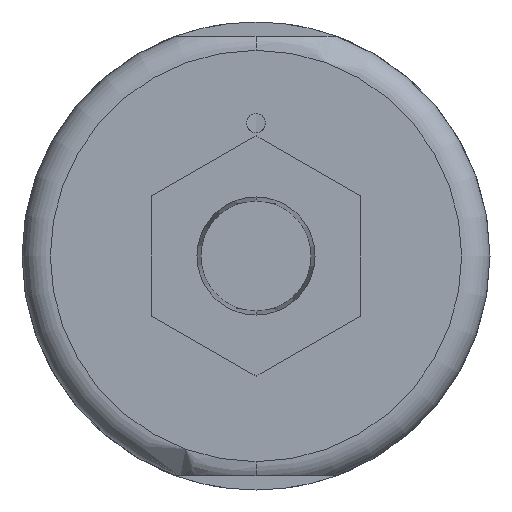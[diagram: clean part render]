
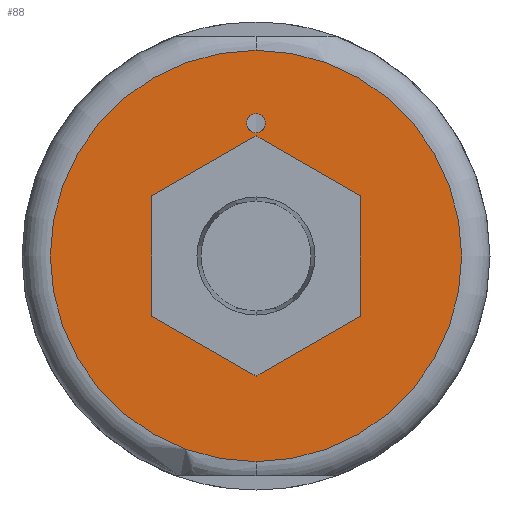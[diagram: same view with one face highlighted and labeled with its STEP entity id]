
A CAD part, front view. The second image highlights one B-rep face of the part: STEP entity #88.
In plain terms, the highlighted planar face has unit normal (0, -1, 0).
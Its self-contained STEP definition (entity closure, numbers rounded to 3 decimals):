
#12 = EDGE_CURVE ( 'NONE', #1906, #1417, #1452, .T. ) ;
#32 = ORIENTED_EDGE ( 'NONE', *, *, #2355, .F. ) ;
#88 = ADVANCED_FACE ( 'NONE', ( #2107, #306, #2289 ), #330, .F. ) ;
#132 = CARTESIAN_POINT ( 'NONE',  ( 0., 0., -12.702 ) ) ;
#142 = DIRECTION ( 'NONE',  ( 0., -1., 0. ) ) ;
#206 = EDGE_CURVE ( 'NONE', #854, #1074, #638, .T. ) ;
#221 = AXIS2_PLACEMENT_3D ( 'NONE', #1861, #2232, #650 ) ;
#233 = ORIENTED_EDGE ( 'NONE', *, *, #1783, .F. ) ;
#253 = VECTOR ( 'NONE', #1602, 1000. ) ;
#265 = EDGE_CURVE ( 'NONE', #1129, #2272, #380, .T. ) ;
#274 = VECTOR ( 'NONE', #1375, 1000. ) ;
#302 = CARTESIAN_POINT ( 'NONE',  ( 0., 0., 0. ) ) ;
#306 = FACE_OUTER_BOUND ( 'NONE', #1248, .T. ) ;
#330 = PLANE ( 'NONE',  #1960 ) ;
#380 = CIRCLE ( 'NONE', #1508, 1. ) ;
#417 = CARTESIAN_POINT ( 'NONE',  ( -11., 0., -6.351 ) ) ;
#474 = CARTESIAN_POINT ( 'NONE',  ( 11., 0., -6.351 ) ) ;
#484 = DIRECTION ( 'NONE',  ( 0., -1., 0. ) ) ;
#519 = ORIENTED_EDGE ( 'NONE', *, *, #1040, .T. ) ;
#570 = ORIENTED_EDGE ( 'NONE', *, *, #265, .F. ) ;
#578 = CARTESIAN_POINT ( 'NONE',  ( 0., 0., 12.702 ) ) ;
#610 = VECTOR ( 'NONE', #2413, 1000. ) ;
#638 = LINE ( 'NONE', #762, #1745 ) ;
#650 = DIRECTION ( 'NONE',  ( 0., 0., -1. ) ) ;
#660 = EDGE_CURVE ( 'NONE', #2272, #1129, #1692, .T. ) ;
#748 = CIRCLE ( 'NONE', #2541, 21.75 ) ;
#762 = CARTESIAN_POINT ( 'NONE',  ( 11., 0., 6.351 ) ) ;
#769 = CARTESIAN_POINT ( 'NONE',  ( 0., 0., 13.05 ) ) ;
#792 = CARTESIAN_POINT ( 'NONE',  ( -11., 0., 6.351 ) ) ;
#807 = LINE ( 'NONE', #792, #253 ) ;
#854 = VERTEX_POINT ( 'NONE', #2520 ) ;
#869 = DIRECTION ( 'NONE',  ( 0., 0., -1. ) ) ;
#914 = EDGE_LOOP ( 'NONE', ( #1457, #570 ) ) ;
#931 = DIRECTION ( 'NONE',  ( 0.866, 0., 0.5 ) ) ;
#933 = CARTESIAN_POINT ( 'NONE',  ( 0., 0., 15.05 ) ) ;
#937 = DIRECTION ( 'NONE',  ( 0., 0., 1. ) ) ;
#941 = EDGE_CURVE ( 'NONE', #1734, #854, #1570, .T. ) ;
#1040 = EDGE_CURVE ( 'NONE', #2492, #2511, #1438, .T. ) ;
#1074 = VERTEX_POINT ( 'NONE', #1744 ) ;
#1079 = EDGE_LOOP ( 'NONE', ( #1698, #32, #1682, #1934, #2045, #233 ) ) ;
#1097 = DIRECTION ( 'NONE',  ( 0., 0., 1. ) ) ;
#1129 = VERTEX_POINT ( 'NONE', #933 ) ;
#1248 = EDGE_LOOP ( 'NONE', ( #2090, #519 ) ) ;
#1293 = CARTESIAN_POINT ( 'NONE',  ( 0., 0., -21.75 ) ) ;
#1323 = LINE ( 'NONE', #132, #1584 ) ;
#1326 = EDGE_CURVE ( 'NONE', #1074, #2017, #1978, .T. ) ;
#1375 = DIRECTION ( 'NONE',  ( -0.866, 0., -0.5 ) ) ;
#1417 = VERTEX_POINT ( 'NONE', #1464 ) ;
#1420 = CARTESIAN_POINT ( 'NONE',  ( -11., 0., -6.351 ) ) ;
#1438 = CIRCLE ( 'NONE', #1816, 21.75 ) ;
#1446 = CARTESIAN_POINT ( 'NONE',  ( -11., 0., 6.351 ) ) ;
#1452 = LINE ( 'NONE', #417, #610 ) ;
#1457 = ORIENTED_EDGE ( 'NONE', *, *, #660, .F. ) ;
#1464 = CARTESIAN_POINT ( 'NONE',  ( 0., 0., -12.702 ) ) ;
#1508 = AXIS2_PLACEMENT_3D ( 'NONE', #2061, #1881, #869 ) ;
#1570 = LINE ( 'NONE', #2556, #1777 ) ;
#1584 = VECTOR ( 'NONE', #931, 1000. ) ;
#1591 = EDGE_CURVE ( 'NONE', #2511, #2492, #748, .T. ) ;
#1602 = DIRECTION ( 'NONE',  ( 0., 0., -1. ) ) ;
#1680 = CARTESIAN_POINT ( 'NONE',  ( 0., 0., 0. ) ) ;
#1682 = ORIENTED_EDGE ( 'NONE', *, *, #1326, .F. ) ;
#1692 = CIRCLE ( 'NONE', #221, 1. ) ;
#1698 = ORIENTED_EDGE ( 'NONE', *, *, #12, .F. ) ;
#1734 = VERTEX_POINT ( 'NONE', #474 ) ;
#1744 = CARTESIAN_POINT ( 'NONE',  ( 0., 0., 12.702 ) ) ;
#1745 = VECTOR ( 'NONE', #2534, 1000. ) ;
#1777 = VECTOR ( 'NONE', #1977, 1000. ) ;
#1783 = EDGE_CURVE ( 'NONE', #1417, #1734, #1323, .T. ) ;
#1816 = AXIS2_PLACEMENT_3D ( 'NONE', #2152, #142, #937 ) ;
#1861 = CARTESIAN_POINT ( 'NONE',  ( 0., 0., 14.05 ) ) ;
#1881 = DIRECTION ( 'NONE',  ( 0., -1., 0. ) ) ;
#1906 = VERTEX_POINT ( 'NONE', #1420 ) ;
#1934 = ORIENTED_EDGE ( 'NONE', *, *, #206, .F. ) ;
#1960 = AXIS2_PLACEMENT_3D ( 'NONE', #1680, #2471, #2498 ) ;
#1977 = DIRECTION ( 'NONE',  ( 0., 0., 1. ) ) ;
#1978 = LINE ( 'NONE', #578, #274 ) ;
#2017 = VERTEX_POINT ( 'NONE', #1446 ) ;
#2045 = ORIENTED_EDGE ( 'NONE', *, *, #941, .F. ) ;
#2061 = CARTESIAN_POINT ( 'NONE',  ( 0., 0., 14.05 ) ) ;
#2090 = ORIENTED_EDGE ( 'NONE', *, *, #1591, .T. ) ;
#2107 = FACE_BOUND ( 'NONE', #914, .T. ) ;
#2152 = CARTESIAN_POINT ( 'NONE',  ( 0., 0., 0. ) ) ;
#2232 = DIRECTION ( 'NONE',  ( 0., -1., 0. ) ) ;
#2272 = VERTEX_POINT ( 'NONE', #769 ) ;
#2289 = FACE_BOUND ( 'NONE', #1079, .T. ) ;
#2355 = EDGE_CURVE ( 'NONE', #2017, #1906, #807, .T. ) ;
#2413 = DIRECTION ( 'NONE',  ( 0.866, 0., -0.5 ) ) ;
#2471 = DIRECTION ( 'NONE',  ( 0., 1., 0. ) ) ;
#2492 = VERTEX_POINT ( 'NONE', #1293 ) ;
#2498 = DIRECTION ( 'NONE',  ( 0., 0., 1. ) ) ;
#2511 = VERTEX_POINT ( 'NONE', #2563 ) ;
#2520 = CARTESIAN_POINT ( 'NONE',  ( 11., 0., 6.351 ) ) ;
#2534 = DIRECTION ( 'NONE',  ( -0.866, 0., 0.5 ) ) ;
#2541 = AXIS2_PLACEMENT_3D ( 'NONE', #302, #484, #1097 ) ;
#2556 = CARTESIAN_POINT ( 'NONE',  ( 11., 0., -6.351 ) ) ;
#2563 = CARTESIAN_POINT ( 'NONE',  ( 0., 0., 21.75 ) ) ;
